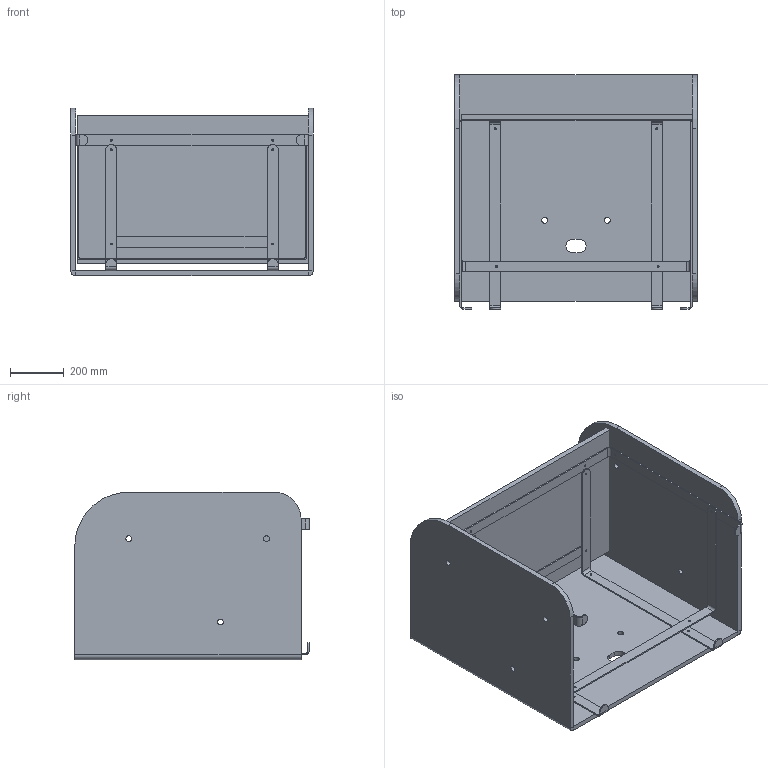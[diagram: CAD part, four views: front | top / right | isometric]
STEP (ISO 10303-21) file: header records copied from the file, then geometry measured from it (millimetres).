
FILE_DESCRIPTION (( 'STEP AP214' ), '1' );
FILE_NAME ('NIK_PUPI_SMALL01.STEP', '2021-11-29T08:46:33', ( '' ), ( '' ), 'SwSTEP 2.0', 'SolidWorks 2019', '' );
FILE_SCHEMA (( 'AUTOMOTIVE_DESIGN' ));
Length unit declared in the file: millimetre
Products named in the file (8): NIK_PUPI_SMALL01; 864x550; EDE_SUP_02_02; EDE_SUP_02_01; WS; EDE_SUP_03; EDE_SUP_02; Pieza20^NIK_PUPI_SMALL01
Assembly tree (7 placements, depth 2):
  NIK_PUPI_SMALL01
    WS
    EDE_SUP_02
    EDE_SUP_02_01
    EDE_SUP_03  x2
    EDE_SUP_02_02
    864x550
  Pieza20^NIK_PUPI_SMALL01
Bounding box: 900 x 870.3 x 621.91 mm (x, y, z)
Volume: 41680072.5 mm3; surface area: 5233584.2 mm2
Topology: 7 solids, 7 shells, 220 faces, 522 edges, 316 vertices
Faces by surface type: plane 108, cylinder 104, bspline 8
Entity records: 5845 total; most frequent: CARTESIAN_POINT 1074, DIRECTION 968, ORIENTED_EDGE 896, EDGE_CURVE 448, AXIS2_PLACEMENT_3D 366, VERTEX_POINT 272, EDGE_LOOP 246, VECTOR 236
